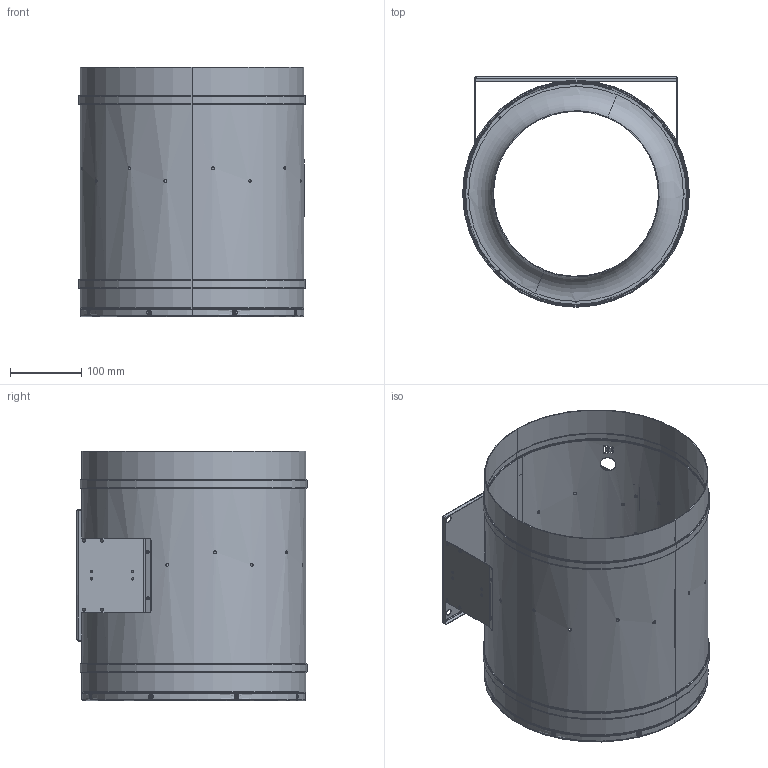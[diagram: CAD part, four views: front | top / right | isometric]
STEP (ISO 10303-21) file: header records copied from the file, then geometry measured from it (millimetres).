
FILE_DESCRIPTION (( 'STEP AP203' ), '1' );
FILE_NAME ('112759-01_EL315D201.STEP', '2013-10-02T13:02:51', ( '' ), ( '' ), 'SwSTEP 2.0', 'SolidWorks 2012', '' );
FILE_SCHEMA (( 'CONFIG_CONTROL_DESIGN' ));
Length unit declared in the file: millimetre
Products named in the file (1): 112759-01_EL315D201
Bounding box: 319 x 323.8 x 350.7 mm (x, y, z)
Surface area: 916718.4 mm2 (no closed solid volume)
Topology: 0 solids, 18 shells, 238 faces, 785 edges, 544 vertices
Faces by surface type: cylinder 102, plane 66, bspline 44, torus 24, cone 2
Entity records: 14660 total; most frequent: CARTESIAN_POINT 7881, ORIENTED_EDGE 1300, DIRECTION 1295, EDGE_CURVE 785, VERTEX_POINT 544, AXIS2_PLACEMENT_3D 521, EDGE_LOOP 372, CIRCLE 326
